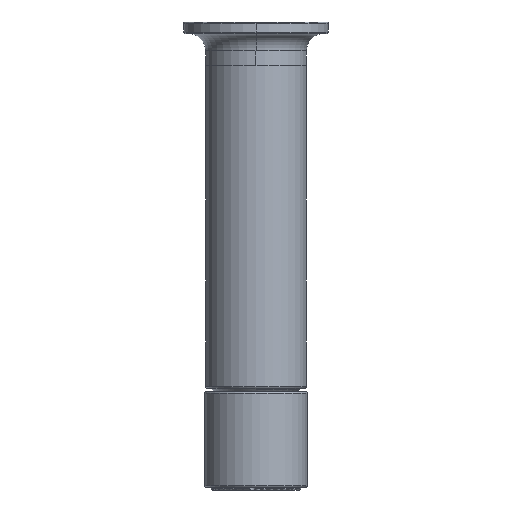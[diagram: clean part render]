
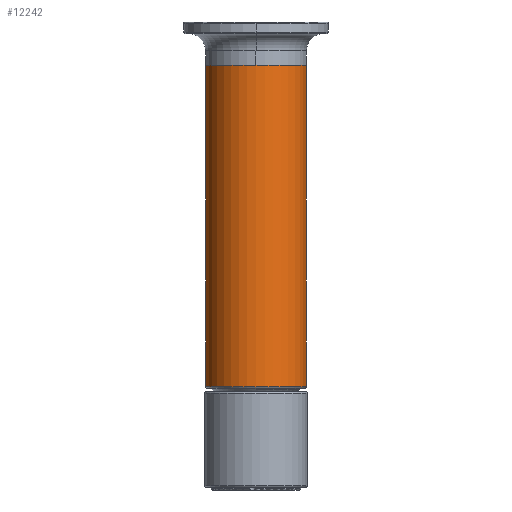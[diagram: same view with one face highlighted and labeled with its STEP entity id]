
A CAD part, front view. The second image highlights one B-rep face of the part: STEP entity #12242.
In plain terms, the highlighted cylindrical face has radius 17.5 mm (diameter 35 mm), a partial arc.
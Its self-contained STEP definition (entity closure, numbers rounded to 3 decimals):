
#869=DIRECTION('',(0.,0.,-1.));
#870=VECTOR('',#869,16.9);
#871=CARTESIAN_POINT('',(-17.5,0.,-109.5));
#872=LINE('',#871,#870);
#1333=DIRECTION('',(0.,0.,-1.));
#1334=VECTOR('',#1333,56.449);
#1335=CARTESIAN_POINT('',(17.5,0.,-15.));
#1336=LINE('',#1335,#1334);
#1337=DIRECTION('',(0.,0.,1.));
#1338=VECTOR('',#1337,38.051);
#1339=CARTESIAN_POINT('',(17.5,0.,-109.5));
#1340=LINE('',#1339,#1338);
#1341=DIRECTION('',(0.,0.,-1.));
#1342=VECTOR('',#1341,16.9);
#1343=CARTESIAN_POINT('',(17.5,0.,-109.5));
#1344=LINE('',#1343,#1342);
#1345=CARTESIAN_POINT('',(0.,0.,-126.4));
#1346=DIRECTION('',(0.,0.,-1.));
#1347=DIRECTION('',(1.,0.,0.));
#1348=AXIS2_PLACEMENT_3D('',#1345,#1346,#1347);
#1350=DIRECTION('',(0.,0.,1.));
#1351=VECTOR('',#1350,38.051);
#1352=CARTESIAN_POINT('',(-17.5,0.,-109.5));
#1353=LINE('',#1352,#1351);
#1354=DIRECTION('',(0.,0.,1.));
#1355=VECTOR('',#1354,56.449);
#1356=CARTESIAN_POINT('',(-17.5,0.,-71.449));
#1357=LINE('',#1356,#1355);
#1358=CARTESIAN_POINT('',(0.,0.,-15.));
#1359=DIRECTION('',(0.,0.,-1.));
#1360=DIRECTION('',(0.,-1.,0.));
#1361=AXIS2_PLACEMENT_3D('',#1358,#1359,#1360);
#1363=CARTESIAN_POINT('',(0.,0.,-15.));
#1364=DIRECTION('',(0.,0.,-1.));
#1365=DIRECTION('',(1.,0.,0.));
#1366=AXIS2_PLACEMENT_3D('',#1363,#1364,#1365);
#6796=CARTESIAN_POINT('',(17.5,0.,-126.4));
#6797=CARTESIAN_POINT('',(-17.5,0.,-126.4));
#6798=VERTEX_POINT('',#6796);
#6799=VERTEX_POINT('',#6797);
#6800=CARTESIAN_POINT('',(-17.5,0.,-15.));
#6802=VERTEX_POINT('',#6800);
#6804=CARTESIAN_POINT('',(17.5,0.,-15.));
#6805=CARTESIAN_POINT('',(0.,-17.5,-15.));
#6806=VERTEX_POINT('',#6804);
#6807=VERTEX_POINT('',#6805);
#6859=CARTESIAN_POINT('',(17.5,0.,-109.5));
#6861=VERTEX_POINT('',#6859);
#6862=CARTESIAN_POINT('',(17.5,0.,-71.449));
#6863=VERTEX_POINT('',#6862);
#6866=CARTESIAN_POINT('',(-17.5,0.,-71.449));
#6867=VERTEX_POINT('',#6866);
#6868=CARTESIAN_POINT('',(-17.5,0.,-109.5));
#6869=VERTEX_POINT('',#6868);
#12221=CARTESIAN_POINT('',(0.,0.,20.));
#12222=DIRECTION('',(0.,0.,-1.));
#12223=DIRECTION('',(-1.,0.,0.));
#12224=AXIS2_PLACEMENT_3D('',#12221,#12222,#12223);
#12225=CYLINDRICAL_SURFACE('',#12224,17.5);
#12227=ORIENTED_EDGE('',*,*,#12226,.T.);
#12228=ORIENTED_EDGE('',*,*,#11305,.F.);
#12229=ORIENTED_EDGE('',*,*,#11339,.T.);
#12230=ORIENTED_EDGE('',*,*,#12208,.T.);
#12231=ORIENTED_EDGE('',*,*,#11344,.F.);
#12233=ORIENTED_EDGE('',*,*,#12232,.T.);
#12235=ORIENTED_EDGE('',*,*,#12234,.T.);
#12237=ORIENTED_EDGE('',*,*,#12236,.F.);
#12239=ORIENTED_EDGE('',*,*,#12238,.F.);
#12240=EDGE_LOOP('',(#12227,#12228,#12229,#12230,#12231,#12233,#12235,#12237,
#12239));
#12241=FACE_OUTER_BOUND('',#12240,.F.);
#1349=CIRCLE('',#1348,17.5);
#1362=CIRCLE('',#1361,17.5);
#1367=CIRCLE('',#1366,17.5);
#11305=EDGE_CURVE('',#6861,#6863,#1340,.T.);
#11339=EDGE_CURVE('',#6861,#6798,#1344,.T.);
#11344=EDGE_CURVE('',#6869,#6799,#872,.T.);
#12208=EDGE_CURVE('',#6798,#6799,#1349,.T.);
#12226=EDGE_CURVE('',#6806,#6863,#1336,.T.);
#12232=EDGE_CURVE('',#6869,#6867,#1353,.T.);
#12234=EDGE_CURVE('',#6867,#6802,#1357,.T.);
#12236=EDGE_CURVE('',#6807,#6802,#1362,.T.);
#12238=EDGE_CURVE('',#6806,#6807,#1367,.T.);
#12242=ADVANCED_FACE('',(#12241),#12225,.T.);
